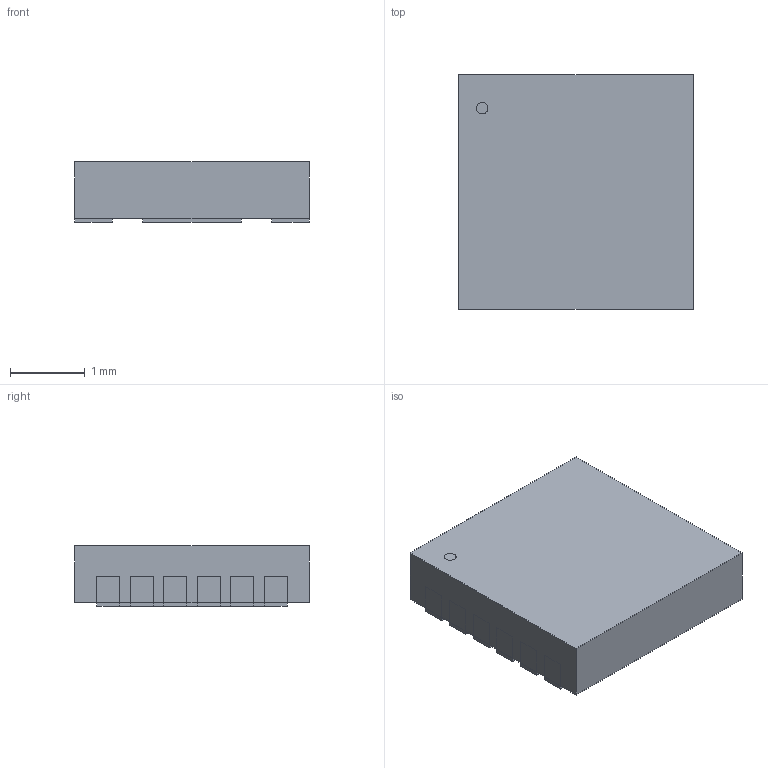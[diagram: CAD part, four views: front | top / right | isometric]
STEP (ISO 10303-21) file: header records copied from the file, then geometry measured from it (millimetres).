
FILE_DESCRIPTION(('STEP AP214'),'1');
FILE_NAME('DFN_S01PUR_STM','2026-07-08T11:08:44',(''),(''),'','','');
FILE_SCHEMA(('AUTOMOTIVE_DESIGN'));
Length unit declared in the file: millimetre
Products named in the file (1): product
Bounding box: 3.15 x 3.15 x 0.81 mm (x, y, z)
Volume: 7.8 mm3; surface area: 42.7 mm2
Topology: 15 solids, 15 shells, 111 faces, 219 edges, 138 vertices
Faces by surface type: plane 110, cylinder 1
Full cylindrical faces by diameter (mm): 0.157 x1
Entity records: 2989 total; most frequent: ORIENTED_EDGE 484, DIRECTION 470, CARTESIAN_POINT 277, EDGE_CURVE 242, LINE 240, VECTOR 240, VERTEX_POINT 162, AXIS2_PLACEMENT_3D 115
